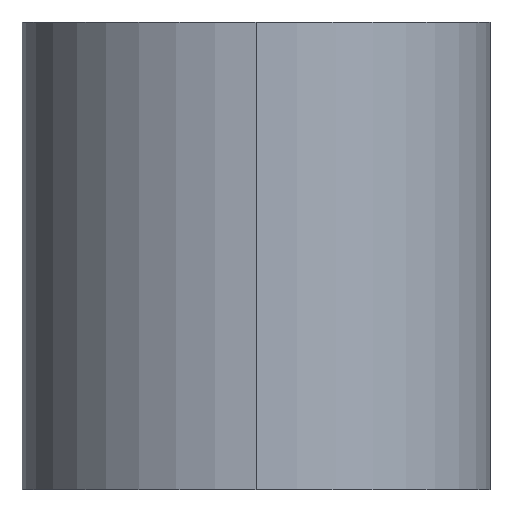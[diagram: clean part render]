
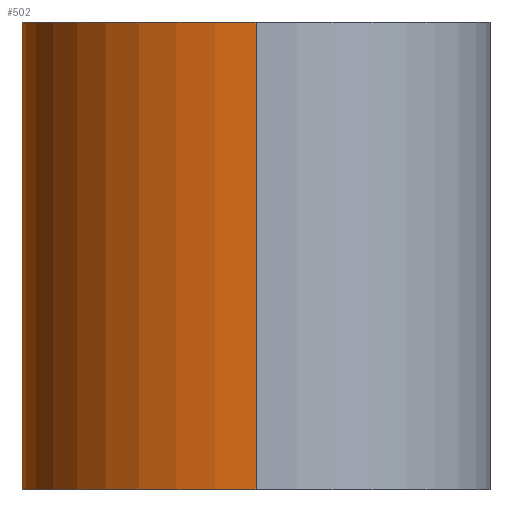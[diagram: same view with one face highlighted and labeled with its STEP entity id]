
A CAD part, left-side view. The second image highlights one B-rep face of the part: STEP entity #502.
In plain terms, the highlighted cylindrical face has radius 1.15 mm (diameter 2.3 mm), a partial arc.
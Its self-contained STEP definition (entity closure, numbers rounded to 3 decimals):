
#88=CARTESIAN_POINT('',(17.491,5.558,0.));
#89=DIRECTION('',(0.,0.,-1.));
#90=DIRECTION('',(-1.,0.,0.));
#91=AXIS2_PLACEMENT_3D('',#88,#89,#90);
#106=DIRECTION('',(0.,0.,1.));
#107=VECTOR('',#106,2.3);
#108=CARTESIAN_POINT('',(17.491,6.708,0.));
#109=LINE('',#108,#107);
#110=DIRECTION('',(0.,0.,1.));
#111=VECTOR('',#110,2.3);
#112=CARTESIAN_POINT('',(16.341,5.558,0.));
#113=LINE('',#112,#111);
#114=CARTESIAN_POINT('',(17.491,5.558,2.3));
#115=DIRECTION('',(0.,0.,-1.));
#116=DIRECTION('',(-1.,0.,0.));
#117=AXIS2_PLACEMENT_3D('',#114,#115,#116);
#296=CARTESIAN_POINT('',(16.341,5.558,2.3));
#297=CARTESIAN_POINT('',(17.491,6.708,2.3));
#298=VERTEX_POINT('',#296);
#299=VERTEX_POINT('',#297);
#340=CARTESIAN_POINT('',(16.341,5.558,0.));
#341=VERTEX_POINT('',#340);
#346=CARTESIAN_POINT('',(17.491,6.708,0.));
#347=VERTEX_POINT('',#346);
#490=CARTESIAN_POINT('',(17.491,5.558,2.3));
#491=DIRECTION('',(0.,0.,-1.));
#492=DIRECTION('',(-1.,0.,0.));
#493=AXIS2_PLACEMENT_3D('',#490,#491,#492);
#494=CYLINDRICAL_SURFACE('',#493,1.15);
#496=ORIENTED_EDGE('',*,*,#495,.F.);
#497=ORIENTED_EDGE('',*,*,#456,.T.);
#498=ORIENTED_EDGE('',*,*,#485,.T.);
#499=ORIENTED_EDGE('',*,*,#401,.F.);
#500=EDGE_LOOP('',(#496,#497,#498,#499));
#501=FACE_OUTER_BOUND('',#500,.F.);
#502=ADVANCED_FACE('',(#501),#494,.T.);
#92=CIRCLE('',#91,1.15);
#118=CIRCLE('',#117,1.15);
#401=EDGE_CURVE('',#298,#299,#118,.T.);
#456=EDGE_CURVE('',#341,#347,#92,.T.);
#485=EDGE_CURVE('',#347,#299,#109,.T.);
#495=EDGE_CURVE('',#341,#298,#113,.T.);
